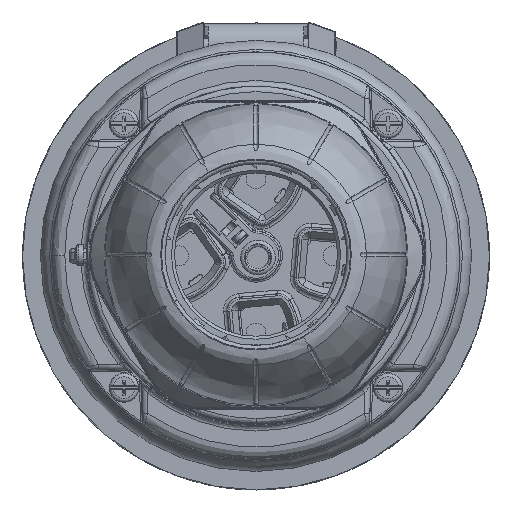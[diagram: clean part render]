
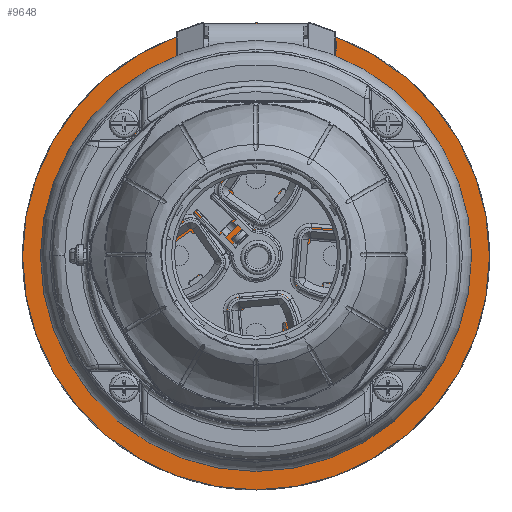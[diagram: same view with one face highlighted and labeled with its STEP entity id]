
A CAD part, top view. The second image highlights one B-rep face of the part: STEP entity #9648.
In plain terms, the highlighted planar face has unit normal (0, 0, 1).
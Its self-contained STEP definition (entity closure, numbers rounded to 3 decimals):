
#1217=PLANE('',#23238);
#8990=CIRCLE('',#23237,64.25);
#9648=ADVANCED_FACE('',(#10544),#1217,.T.);
#10544=FACE_OUTER_BOUND('',#11260,.T.);
#11260=EDGE_LOOP('',(#13603));
#13603=ORIENTED_EDGE('',*,*,#19876,.T.);
#17267=VERTEX_POINT('',#37275);
#19876=EDGE_CURVE('',#17267,#17267,#8990,.T.);
#23237=AXIS2_PLACEMENT_3D('',#37274,#26197,#26198);
#23238=AXIS2_PLACEMENT_3D('',#37276,#26199,#26200);
#26197=DIRECTION('',(0.,0.,1.));
#26198=DIRECTION('',(1.,0.,0.));
#26199=DIRECTION('',(0.,0.,1.));
#26200=DIRECTION('',(0.,-1.,0.));
#37274=CARTESIAN_POINT('',(-7.619,15.656,-270.111));
#37275=CARTESIAN_POINT('',(56.631,15.656,-270.111));
#37276=CARTESIAN_POINT('',(57.427,-48.605,-270.111));
